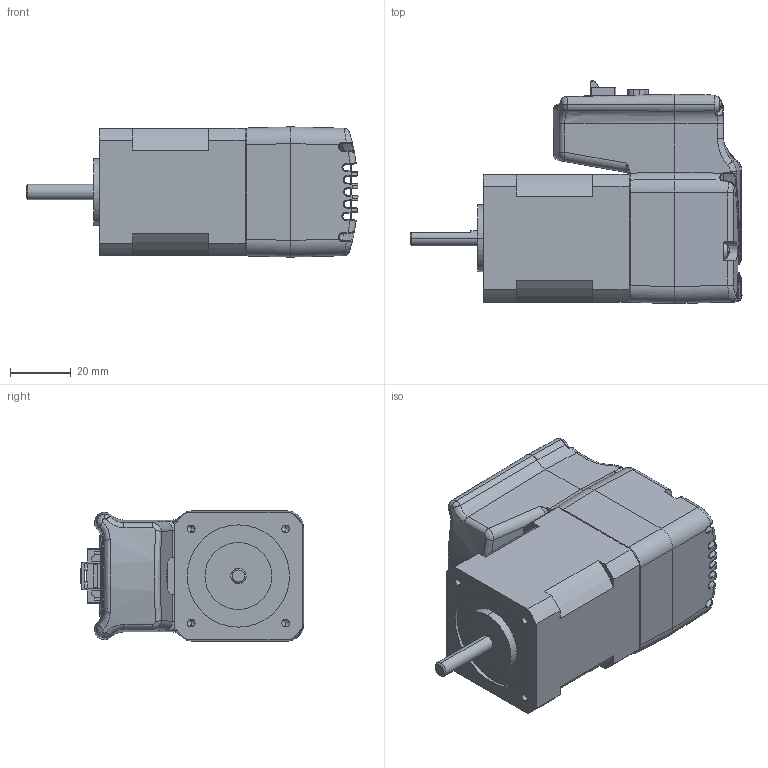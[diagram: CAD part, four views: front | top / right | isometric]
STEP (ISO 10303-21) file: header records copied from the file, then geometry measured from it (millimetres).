
FILE_DESCRIPTION (( 'STEP AP203' ), '1' );
FILE_NAME ('P26-MO-042-03-R00.STEP', '2015-04-15T06:35:10', ( '' ), ( '' ), 'SwSTEP 2.0', 'SolidWorks 2013', '' );
FILE_SCHEMA (( 'CONFIG_CONTROL_DESIGN' ));
Length unit declared in the file: millimetre
Products named in the file (20): 瞪錳薄樓醴喀攪-2; round cross head screw_ks_KS 1023 RC - M3 x 20-N; 瞪錳薄樓醴喀攪-5; M25-MO-042-03-R00(BM-42L-BT-01)_湀_; RS-232C 鱔褐醴喀攪; M16-EC-042-01-R00; P26-MO-042-03-R00; ﾆﾞｽｺ ﾀﾔｷﾂ ｹ貎ﾄ ｼｳﾁ､ ｽｺﾀｧﾄ｡-1; M15-EC-042-02-R00; ﾆﾞｽｺ ﾀﾔｷﾂ ｹ貎ﾄ ｼｳﾁ､ ｽｺﾀｧﾄ｡-2; M26-EC-042-01-R00; 蝶嬪纂-1; M15-EC-042-05-R00; 蝶嬪纂-2; ﾀﾔﾃ箙ﾂ ﾁ｢ｼﾓ ﾄｿｳﾘﾅﾍ; 匙飘况农 ID 钎矫 棺 惑怕 钎矫; 瞪錳薄樓醴喀攪-3; 瞪錳薄樓醴喀攪-1; 烹脚加档 汲沥 胶困摹; 瞪錳薄樓醴喀攪-4
Assembly tree (23 placements, depth 2):
  P26-MO-042-03-R00
    M16-EC-042-01-R00
    M15-EC-042-02-R00
    M26-EC-042-01-R00
    M15-EC-042-05-R00
    ﾀﾔﾃ箙ﾂ ﾁ｢ｼﾓ ﾄｿｳﾘﾅﾍ
    瞪錳薄樓醴喀攪-1
    瞪錳薄樓醴喀攪-2
    瞪錳薄樓醴喀攪-3
    瞪錳薄樓醴喀攪-4
    瞪錳薄樓醴喀攪-5
    RS-232C 鱔褐醴喀攪  x2
    ﾆﾞｽｺ ﾀﾔｷﾂ ｹ貎ﾄ ｼｳﾁ､ ｽｺﾀｧﾄ｡-1
    ﾆﾞｽｺ ﾀﾔｷﾂ ｹ貎ﾄ ｼｳﾁ､ ｽｺﾀｧﾄ｡-2
    蝶嬪纂-1
    蝶嬪纂-2
    匙飘况农 ID 钎矫 棺 惑怕 钎矫
    烹脚加档 汲沥 胶困摹
    round cross head screw_ks_KS 1023 RC - M3 x 20-N  x4
    M25-MO-042-03-R00(BM-42L-BT-01)_湀_
Bounding box: 109.09 x 73.3 x 42.8 mm (x, y, z)
Volume: 120966.7 mm3; surface area: 50570.9 mm2
Topology: 21 solids, 23 shells, 2290 faces, 5975 edges, 3739 vertices
Faces by surface type: plane 1151, cylinder 659, bspline 308, cone 88, torus 44, sphere 40
Entity records: 97189 total; most frequent: CARTESIAN_POINT 48517, ORIENTED_EDGE 10680, DIRECTION 7901, EDGE_CURVE 5359, VERTEX_POINT 3393, VECTOR 2897, LINE 2897, AXIS2_PLACEMENT_3D 2502
